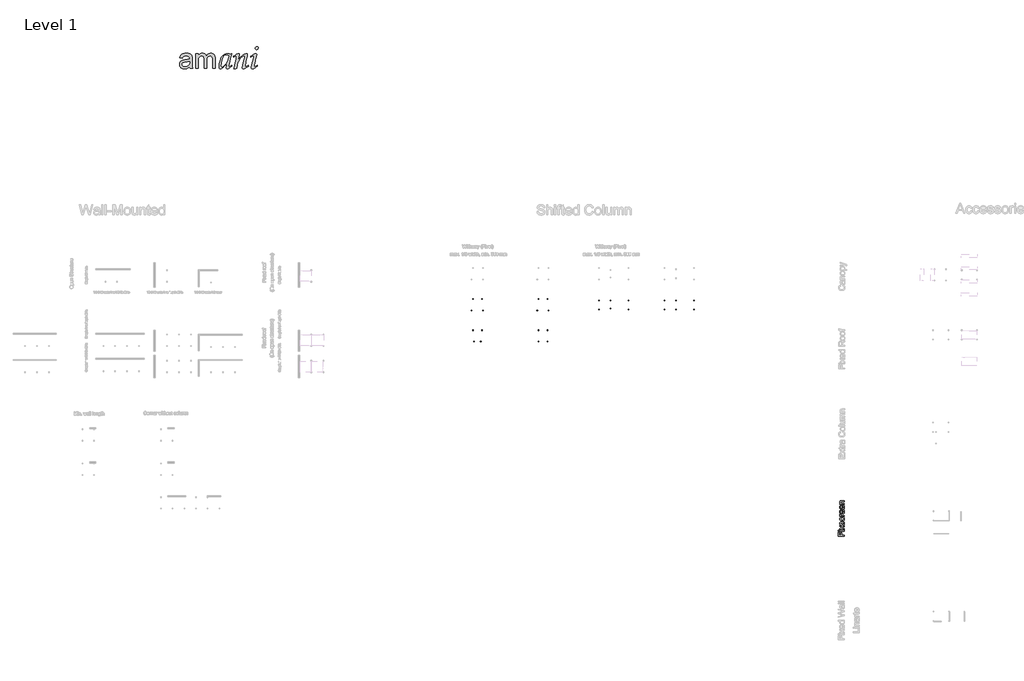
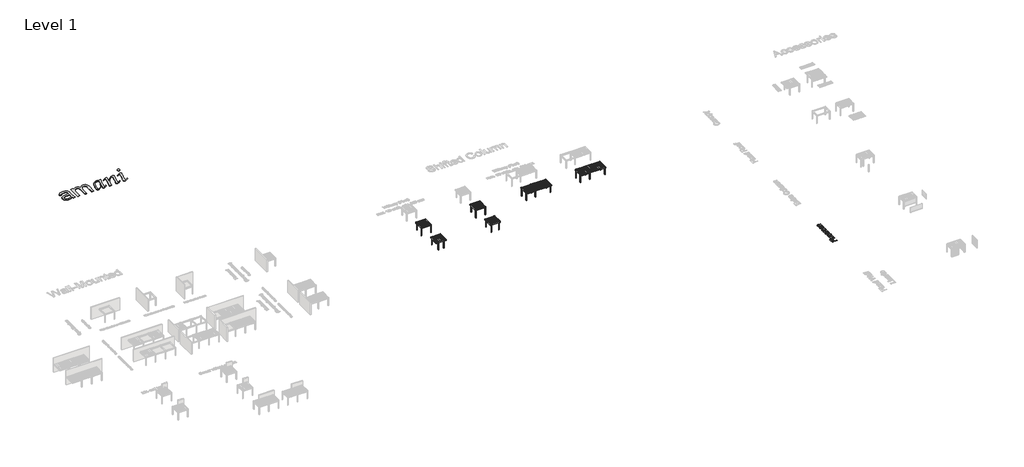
# One storey, part 73 of 80: 9 proxies.
"""IFC4 building model written with IfcOpenShell, lengths in millimetres."""

from ifc_helpers import new_model, si_unit, origin, origin_with_axes, place, context, project, spatial, polyline, outline, extrude, transform, mapped, element, save
from components import generic_models_adf1df4a, generic_models_fc837481, generic_models_2e687909, generic_models_d4e516ff, generic_models_04456231, generic_models_0a3c47ec

model = new_model("IFC4")

# Units and contexts
model_context = context("Model", 3, world=origin())
ifc_project = project(units=[si_unit("LENGTHUNIT", "METRE", prefix="MILLI")], contexts=[model_context])

# Site, building, storey
site = spatial("IfcSite", under=ifc_project)
building = spatial("IfcBuilding", under=site)
storey = spatial("IfcBuildingStorey", under=building, Name="Level 1", Elevation=0.0)

# Proxies
placement = place(None, origin())
generic_models_shape = generic_models_adf1df4a(model_context)
element("IfcBuildingElementProxy", 1, Name="Renson_Amani_Patio_Cover : Renson_Amani_Patio_Cover", ObjectType="Renson_Amani_Patio_Cover : Renson_Amani_Patio_Cover", at=placement, inside=storey, context=model_context, shape_type="MappedRepresentation", body=[
    mapped(generic_models_shape, transform((269453.165057, 60334.5861401, 0.0), x_axis=(1.0, 0.0, 0.0), y_axis=(0.0, 1.0, 0.0), z_axis=(0.0, 0.0, 1.0))),
])
generic_models_2_shape = generic_models_fc837481(model_context)
element("IfcBuildingElementProxy", 2, Name="Renson_Amani_Patio_Cover : Renson_Amani_Patio_Cover", ObjectType="Renson_Amani_Patio_Cover : Renson_Amani_Patio_Cover", at=placement, inside=storey, context=model_context, shape_type="MappedRepresentation", body=[
    mapped(generic_models_2_shape, transform((285773.165057, 60334.5861401, 0.0), x_axis=(1.0, 0.0, 0.0), y_axis=(0.0, 1.0, 0.0), z_axis=(0.0, 0.0, 1.0))),
])
generic_models_3_shape = generic_models_2e687909(model_context)
element("IfcBuildingElementProxy", 3, Name="Renson_Amani_Patio_Cover : Renson_Amani_Patio_Cover", ObjectType="Renson_Amani_Patio_Cover : Renson_Amani_Patio_Cover", at=placement, inside=storey, context=model_context, shape_type="MappedRepresentation", body=[
    mapped(generic_models_3_shape, transform((269453.165057, 52590.5861401, 0.0), x_axis=(1.0, 0.0, 0.0), y_axis=(0.0, 1.0, 0.0), z_axis=(0.0, 0.0, 1.0))),
])
generic_models_4_shape = generic_models_d4e516ff(model_context)
element("IfcBuildingElementProxy", 4, Name="Renson_Amani_Patio_Cover : Renson_Amani_Patio_Cover", ObjectType="Renson_Amani_Patio_Cover : Renson_Amani_Patio_Cover", at=placement, inside=storey, context=model_context, shape_type="MappedRepresentation", body=[
    mapped(generic_models_4_shape, transform((285773.165057, 52590.5861401, 0.0), x_axis=(1.0, 0.0, 0.0), y_axis=(0.0, 1.0, 0.0), z_axis=(0.0, 0.0, 1.0))),
])
generic_models_5_shape = generic_models_04456231(model_context)
element("IfcBuildingElementProxy", 5, Name="Renson_Amani_Patio_Cover : Renson_Amani_Patio_Cover", ObjectType="Renson_Amani_Patio_Cover : Renson_Amani_Patio_Cover", at=placement, inside=storey, context=model_context, shape_type="MappedRepresentation", body=[
    mapped(generic_models_5_shape, transform((301153.165057, 60334.5861401, 0.0), x_axis=(1.0, 0.0, 0.0), y_axis=(0.0, 1.0, 0.0), z_axis=(0.0, 0.0, 1.0))),
])
generic_models_6_shape = generic_models_0a3c47ec(model_context)
element("IfcBuildingElementProxy", 6, Name="Renson_Amani_Patio_Cover : Renson_Amani_Patio_Cover", ObjectType="Renson_Amani_Patio_Cover : Renson_Amani_Patio_Cover", at=placement, inside=storey, context=model_context, shape_type="MappedRepresentation", body=[
    mapped(generic_models_6_shape, transform((317473.165057, 60334.5861401, 0.0), x_axis=(1.0, 0.0, 0.0), y_axis=(0.0, 1.0, 0.0), z_axis=(0.0, 0.0, 1.0))),
])
element("IfcBuildingElementProxy", 7, Name="1500mm", ObjectType="1500mm", at=placement, inside=storey, context=model_context, shape_type="SweptSolid", body=[
    extrude(outline(polyline([(360838.2731482, 2743.6540589), (359331.428496, 2743.6540589), (359331.428496, 3756.0653096), (359519.7840775, 3756.0653096), (359519.7840775, 2932.0096404), (359967.1285837, 2932.0096404), (359967.1285837, 3638.3430712), (360155.4841652, 3638.3430712), (360155.4841652, 2932.0096404), (360838.2731482, 2932.0096404), (360838.2731482, 2743.6540589)])), origin_with_axes(), (0.0, 0.0, 1.0), 5.0),
    extrude(outline(polyline([(359519.7840775, 3991.5097866), (359331.428496, 3991.5097866), (359331.428496, 4179.8653681), (359519.7840775, 4179.8653681), (359519.7840775, 3991.5097866)])), origin_with_axes(), (0.0, 0.0, 1.0), 5.0),
    extrude(outline(polyline([(360838.2731482, 3991.5097866), (359731.6841067, 3991.5097866), (359731.6841067, 4179.8653681), (360838.2731482, 4179.8653681), (360838.2731482, 3991.5097866)])), origin_with_axes(), (0.0, 0.0, 1.0), 5.0),
    extrude(outline(polyline([(360838.2731482, 4344.6765019), (360282.0355715, 4747.1394047), (359731.6841067, 4368.2209496), (359731.6841067, 4594.8362586), (359996.5591433, 4777.6736103), (360121.6390216, 4863.0222331), (360019.367827, 4936.9665142), (359731.6841067, 5145.1877234), (359731.6841067, 5371.8030325), (360282.0355715, 4973.7547137), (360838.2731482, 5357.0877527), (360838.2731482, 5130.4724436), (360503.8684146, 4899.8104327), (360442.8000034, 4857.5040032), (360838.2731482, 4571.291811), (360838.2731482, 4344.6765019)])), origin_with_axes(), (0.0, 0.0, 1.0), 5.0),
    extrude(outline(polyline([(360508.6508806, 5451.2655434), (360485.1064329, 5639.621125), (360528.0566558, 5651.0024742), (360565.6725898, 5669.3275961), (360597.9542349, 5694.5964906), (360624.901591, 5726.8091578), (360646.1467763, 5766.0575682), (360661.3219086, 5812.4336922), (360670.4269879, 5865.9375299), (360673.4620144, 5926.5690812), (360670.6799068, 5987.1316546), (360662.333584, 6039.3249127), (360648.4230461, 6083.1488554), (360628.948293, 6118.6034827), (360605.725742, 6145.9647061), (360580.5718106, 6165.5084371), (360553.4864987, 6177.2346757), (360524.4698063, 6181.1434219), (360499.0399634, 6177.211683), (360476.461206, 6165.4164666), (360456.733534, 6145.7577724), (360439.8569475, 6118.2356007), (360415.9446178, 6047.6942281), (360386.1461762, 5924.3617892), (360336.4361216, 5752.468927), (360314.3057203, 5689.0782607), (360293.9917364, 5640.7247709), (360272.7120622, 5602.3615766), (360247.6845902, 5568.9417966), (360218.9093204, 5540.4654309), (360186.3862528, 5516.9324796), (360151.0925739, 5498.5038909), (360114.0054702, 5485.3406132), (360075.1249419, 5477.4426466), (360034.4509888, 5474.8099911), (359997.2604183, 5476.9253126), (359961.472398, 5483.271277), (359927.0869277, 5493.8478844), (359894.1040076, 5508.6551347), (359863.1904237, 5527.1182123), (359835.0129621, 5548.6623016), (359809.5716229, 5573.2874027), (359786.866406, 5600.9935155), (359756.5621267, 5653.0028325), (359731.1322837, 5720.7391049), (359713.8878152, 5799.0519846), (359708.1396591, 5882.7911238), (359710.4504178, 5946.0898196), (359717.3826942, 6005.3877987), (359728.9364881, 6060.6850611), (359745.1117996, 6111.9816068), (359765.2303462, 6158.0588267), (359788.6138455, 6197.6981116), (359815.2622975, 6230.8994617), (359845.1757023, 6257.6628768), (359879.4002241, 6279.3679146), (359918.9820275, 6297.3941323), (359963.9211125, 6311.7415301), (360014.217479, 6322.410108), (360037.7619267, 6134.0545265), (360006.2965198, 6125.0759065), (359978.4869403, 6110.2801525), (359954.333188, 6089.6672645), (359933.8352631, 6063.2372424), (359917.4990032, 6030.8751231), (359905.8302462, 5992.4659436), (359898.828992, 5948.0097037), (359896.4952406, 5897.5064036), (359898.7255252, 5838.9211958), (359905.416379, 5789.349097), (359916.5678019, 5748.790107), (359932.1797941, 5717.2442259), (359950.7578349, 5693.5848151), (359970.8074036, 5676.685236), (359992.3285003, 5666.5454885), (360015.321125, 5663.1655726), (360044.2918321, 5668.7757731), (360070.1355423, 5685.6063743), (360093.2201375, 5714.3931405), (360111.7062078, 5755.8718354), (360151.8053452, 5918.1077953), (360201.0095621, 6084.5284129), (360240.4649061, 6194.5711147), (360259.7097329, 6233.2906947), (360282.863306, 6267.5956907), (360309.9256253, 6297.4861028), (360340.8966908, 6322.961931), (360375.8224877, 6343.3219002), (360414.7490013, 6357.8647353), (360457.6762316, 6366.5904364), (360504.6041786, 6369.4990034), (360551.7390592, 6366.0845986), (360597.4943824, 6355.8413843), (360641.8701481, 6338.7693605), (360684.8663562, 6314.8685271), (360724.7700564, 6284.5297588), (360759.868298, 6248.1439302), (360790.1610811, 6205.7110413), (360815.6484055, 6157.2310922), (360835.8474263, 6104.0261586), (360850.2752983, 6047.4183166), (360858.9320215, 5987.4075661), (360861.8175959, 5923.9939072), (360856.2533807, 5822.6194249), (360849.2981118, 5776.7433905), (360839.5607352, 5734.0748272), (360827.0412511, 5694.6137351), (360811.7396593, 5658.3601141), (360793.65596, 5625.3139642), (360772.7901531, 5595.4752855), (360749.1882238, 5568.5164331), (360722.8961575, 5544.109762), (360693.9139541, 5522.2552722), (360662.2416135, 5502.9529637), (360627.8791359, 5486.2028366), (360590.8265212, 5472.0048909), (360508.6508806, 5451.2655434)])), origin_with_axes(), (0.0, 0.0, 1.0), 5.0),
    extrude(outline(polyline([(360438.0175375, 7287.7324633), (360461.5619852, 7476.0880449), (360507.2799453, 7467.2876178), (360550.4399759, 7455.6016163), (360591.0420771, 7441.0300404), (360629.0862487, 7423.5728901), (360664.5724909, 7403.2301654), (360697.5008035, 7380.0018663), (360727.8711867, 7353.8879928), (360755.6836403, 7324.8885449), (360780.5587862, 7293.5840863), (360802.1172459, 7260.5551809), (360820.3590195, 7225.8018287), (360835.284107, 7189.3240296), (360846.8925084, 7151.1217837), (360855.1842237, 7111.1950909), (360860.1592529, 7069.5439513), (360861.8175959, 7026.1683648), (360859.5039631, 6971.9833706), (360852.5630645, 6920.5287506), (360840.9949002, 6871.8045048), (360824.7994702, 6825.8106331), (360803.9767744, 6782.5471357), (360778.526813, 6742.0140124), (360748.4495858, 6704.2112634), (360713.7450929, 6669.1388885), (360674.7179865, 6637.5383999), (360631.672919, 6610.1513098), (360584.6098903, 6586.9776182), (360533.5289005, 6568.017325), (360478.4299495, 6553.2704304), (360419.3130373, 6542.7369342), (360356.1781639, 6536.4168365), (360289.0253294, 6534.3101372), (360202.4236085, 6537.908483), (360121.4090954, 6548.7035203), (360045.9817901, 6566.6952491), (359976.1416925, 6591.8836695), (359913.2913529, 6624.441226), (359858.8333213, 6664.5403635), (359812.7675977, 6712.1810819), (359775.0941822, 6767.3633812), (359745.8015783, 6827.5925616), (359724.8782898, 6890.3739233), (359712.3243167, 6955.7074664), (359708.1396591, 7023.5931908), (359713.8878152, 7107.1598853), (359721.0730104, 7145.9513172), (359731.1322837, 7182.748139), (359744.0656351, 7217.5503505), (359759.8730646, 7250.3579519), (359778.5545722, 7281.1709431), (359800.1101578, 7309.9893241), (359824.3098953, 7336.560176), (359850.9238584, 7360.6305799), (359879.9520471, 7382.200536), (359911.3944614, 7401.2700441), (359945.2511013, 7417.8391043), (359981.5219667, 7431.9077165), (360061.3063744, 7452.5435972), (360084.8508221, 7264.1880157), (360040.8544348, 7249.4842322), (360002.6751814, 7230.0209753), (359970.3130622, 7205.7982452), (359943.768077, 7176.8160418), (359923.086211, 7143.810129), (359908.3134497, 7107.516271), (359899.4497929, 7067.9344675), (359896.4952406, 7025.0647188), (359902.3123746, 6961.0647479), (359909.5837922, 6931.4186325), (359919.7637768, 6903.3417636), (359932.8523284, 6876.8341414), (359948.849447, 6851.8957659), (359967.7551327, 6828.5266369), (359989.5693854, 6806.7267546), (360014.5278795, 6787.0249494), (360042.8662894, 6769.9500514), (360074.5846152, 6755.5020609), (360109.6828568, 6743.6809777), (360148.1610142, 6734.4868019), (360190.0190875, 6727.9195335), (360283.8749815, 6722.6657188), (360379.1449219, 6727.8045704), (360421.5289515, 6734.2281349), (360460.4123539, 6743.2211252), (360495.7951293, 6754.7835414), (360527.6772775, 6768.9153833), (360556.0587986, 6785.6166511), (360580.9396926, 6804.8873447), (360602.6246118, 6826.2331226), (360621.4182084, 6849.1596435), (360637.3204824, 6873.6669074), (360650.3314339, 6899.7549142), (360660.4510629, 6927.4236639), (360667.6793693, 6956.6731566), (360673.4620144, 7019.9143709), (360669.8521723, 7070.8775235), (360659.0226461, 7117.4490848), (360640.9734357, 7159.6290548), (360615.7045412, 7197.4174335), (360582.940051, 7229.7565602), (360542.4040536, 7255.588774), (360494.0965491, 7274.9140751), (360438.0175375, 7287.7324633)])), origin_with_axes(), (0.0, 0.0, 1.0), 5.0),
    extrude(outline(polyline([(360838.2731482, 7640.8991787), (359731.6841067, 7640.8991787), (359731.6841067, 7805.7103126), (359895.3915946, 7805.7103126), (359843.0603808, 7836.7503559), (359800.4780398, 7866.5947828), (359767.6445718, 7895.2435931), (359744.5599766, 7922.696787), (359728.6260877, 7950.1959662), (359717.2447384, 7978.9827323), (359710.4159289, 8009.0570854), (359708.1396591, 8040.4190255), (359711.7724938, 8087.1400389), (359722.6709979, 8134.2289342), (359740.8351714, 8181.6857116), (359766.2650143, 8229.510371), (359935.1228501, 8166.6025498), (359918.2232709, 8133.4931703), (359906.152143, 8100.3837907), (359898.9094662, 8067.2744111), (359896.4952406, 8034.1650316), (359898.8174957, 8005.2977912), (359905.784261, 7977.9250715), (359917.3955364, 7952.0468724), (359933.6513221, 7927.663194), (359954.0227876, 7905.6937411), (359977.9811025, 7887.0582187), (360005.5262669, 7871.756627), (360036.6582807, 7859.7889658), (360088.0697896, 7846.4302509), (360141.8725314, 7836.8883116), (360198.0665061, 7831.1631481), (360256.6517139, 7829.2547602), (360838.2731482, 7829.2547602), (360838.2731482, 7640.8991787)])), origin_with_axes(), (0.0, 0.0, 1.0), 5.0),
    extrude(outline(polyline([(360508.6508806, 9121.9920913), (360532.1953282, 9306.6688529), (360606.1626019, 9278.3534356), (360639.8525452, 9260.4795439), (360671.3466929, 9240.128197), (360700.6450449, 9217.2993947), (360727.7476013, 9191.9931372), (360752.654362, 9164.2094243), (360775.3653271, 9133.9482561), (360795.6275776, 9101.3590847), (360813.1881947, 9066.5913621), (360828.0471784, 9029.6450883), (360840.2045287, 8990.5202633), (360856.4143291, 8905.7349597), (360861.8175959, 8812.2354514), (360859.4867186, 8752.2074564), (360852.4940866, 8695.36394), (360840.8397, 8641.7049021), (360824.5235587, 8591.2303428), (360803.5456627, 8543.9402619), (360777.9060121, 8499.8346596), (360747.6046068, 8458.9135358), (360712.6414469, 8421.1768905), (360673.4706366, 8387.2915098), (360630.5462804, 8357.9241799), (360583.8683782, 8333.0749008), (360533.43693, 8312.7436724), (360479.2519358, 8296.9304948), (360421.3133956, 8285.6353679), (360359.6213095, 8278.8582918), (360294.1756774, 8276.5992664), (360226.5026347, 8278.8812844), (360162.726842, 8285.7273384), (360102.8482991, 8297.1374284), (360046.8670061, 8313.1115544), (359994.782963, 8333.6497164), (359946.5961698, 8358.7519144), (359902.3066265, 8388.4181484), (359861.914333, 8422.6484185), (359825.8733938, 8460.5172713), (359794.6379132, 8501.0992539), (359768.2078911, 8544.3943662), (359746.5833275, 8590.4026083), (359729.7642226, 8639.12398), (359717.7505762, 8690.5584815), (359710.5423883, 8744.7061126), (359708.1396591, 8801.5668735), (359710.5366402, 8856.5681059), (359717.7275836, 8908.9999124), (359729.7124892, 8958.8622931), (359746.491357, 9006.1552481), (359768.0641872, 9050.8787772), (359794.4309795, 9093.0328805), (359825.5917342, 9132.617558), (359861.546451, 9169.6328097), (359901.846774, 9203.1301898), (359946.0443468, 9232.1612525), (359994.1391695, 9256.7259979), (360046.1312421, 9276.824426), (360102.0205646, 9292.4565367), (360161.807137, 9303.6223301), (360225.4909592, 9310.3218061), (360293.0720314, 9312.5549648), (360343.8397467, 9311.4513188), (360343.8397467, 8464.9548479), (360419.0026369, 8475.8648483), (360453.0834548, 8485.3636764), (360484.8305214, 8497.5583897), (360514.2438365, 8512.4489883), (360541.3234003, 8530.0354721), (360566.0692126, 8550.3178412), (360588.4812735, 8573.2960955), (360625.6603476, 8624.9490269), (360652.2168292, 8682.6030333), (360668.1507181, 8746.2581148), (360673.4620144, 8815.9142713), (360671.0018036, 8868.0155589), (360663.621171, 8916.162115), (360651.3201168, 8960.3539397), (360634.0986409, 9000.5910329), (360611.4968908, 9036.8733947), (360583.0550141, 9069.201025), (360548.7730107, 9097.5739239), (360508.6508806, 9121.9920913)]), holes=[polyline([(360155.4841652, 8464.9548479), (360155.4841652, 9124.1993833), (360102.1872611, 9114.5194883), (360055.9720855, 9098.7235551), (360016.8386383, 9076.8115838), (359984.7869194, 9048.7835743), (359964.0935572, 9023.9860285), (359946.1593099, 8997.4180507), (359930.9841776, 8969.0796407), (359918.5681603, 8938.9707987), (359902.0134705, 8873.4418183), (359896.4952406, 8800.8311095), (359900.8983282, 8734.6008541), (359914.1075911, 8673.8658359), (359936.1230292, 8618.6260551), (359966.9446427, 8568.8815115), (360005.1468886, 8527.1384014), (360049.3042243, 8495.9029208), (360099.4166499, 8475.1750696), (360155.4841652, 8464.9548479)])]), origin_with_axes(), (0.0, 0.0, 1.0), 5.0),
    extrude(outline(polyline([(360508.6508806, 10275.6700282), (360532.1953282, 10460.3467897), (360606.1626019, 10432.0313724), (360639.8525452, 10414.1574808), (360671.3466929, 10393.8061339), (360700.6450449, 10370.9773316), (360727.7476013, 10345.6710741), (360752.654362, 10317.8873612), (360775.3653271, 10287.626193), (360795.6275776, 10255.0370216), (360813.1881947, 10220.269299), (360828.0471784, 10183.3230251), (360840.2045287, 10144.1982001), (360856.4143291, 10059.4128966), (360861.8175959, 9965.9133882), (360859.4867186, 9905.8853933), (360852.4940866, 9849.0418769), (360840.8397, 9795.382839), (360824.5235587, 9744.9082796), (360803.5456627, 9697.6181988), (360777.9060121, 9653.5125965), (360747.6046068, 9612.5914726), (360712.6414469, 9574.8548274), (360673.4706366, 9540.9694467), (360630.5462804, 9511.6021168), (360583.8683782, 9486.7528377), (360533.43693, 9466.4216093), (360479.2519358, 9450.6084316), (360421.3133956, 9439.3133048), (360359.6213095, 9432.5362286), (360294.1756774, 9430.2772033), (360226.5026347, 9432.5592213), (360162.726842, 9439.4052753), (360102.8482991, 9450.8153653), (360046.8670061, 9466.7894913), (359994.782963, 9487.3276533), (359946.5961698, 9512.4298513), (359902.3066265, 9542.0960853), (359861.914333, 9576.3263553), (359825.8733938, 9614.1952082), (359794.6379132, 9654.7771908), (359768.2078911, 9698.0723031), (359746.5833275, 9744.0805451), (359729.7642226, 9792.8019169), (359717.7505762, 9844.2364183), (359710.5423883, 9898.3840495), (359708.1396591, 9955.2448104), (359710.5366402, 10010.2460427), (359717.7275836, 10062.6778493), (359729.7124892, 10112.54023), (359746.491357, 10159.8331849), (359768.0641872, 10204.5567141), (359794.4309795, 10246.7108174), (359825.5917342, 10286.2954949), (359861.546451, 10323.3107465), (359901.846774, 10356.8081267), (359946.0443468, 10385.8391894), (359994.1391695, 10410.4039348), (360046.1312421, 10430.5023629), (360102.0205646, 10446.1344736), (360161.807137, 10457.300267), (360225.4909592, 10463.999743), (360293.0720314, 10466.2329017), (360343.8397467, 10465.1292557), (360343.8397467, 9618.6327848), (360419.0026369, 9629.5427852), (360453.0834548, 9639.0416133), (360484.8305214, 9651.2363266), (360514.2438365, 9666.1269252), (360541.3234003, 9683.713409), (360566.0692126, 9703.9957781), (360588.4812735, 9726.9740324), (360625.6603476, 9778.6269637), (360652.2168292, 9836.2809702), (360668.1507181, 9899.9360517), (360673.4620144, 9969.5922082), (360671.0018036, 10021.6934957), (360663.621171, 10069.8400519), (360651.3201168, 10114.0318765), (360634.0986409, 10154.2689698), (360611.4968908, 10190.5513315), (360583.0550141, 10222.8789619), (360548.7730107, 10251.2518607), (360508.6508806, 10275.6700282)]), holes=[polyline([(360155.4841652, 9618.6327848), (360155.4841652, 10277.8773201), (360102.1872611, 10268.1974251), (360055.9720855, 10252.401492), (360016.8386383, 10230.4895206), (359984.7869194, 10202.4615111), (359964.0935572, 10177.6639654), (359946.1593099, 10151.0959876), (359930.9841776, 10122.7575776), (359918.5681603, 10092.6487356), (359902.0134705, 10027.1197552), (359896.4952406, 9954.5090464), (359900.8983282, 9888.2787909), (359914.1075911, 9827.5437728), (359936.1230292, 9772.303992), (359966.9446427, 9722.5594484), (360005.1468886, 9680.8163383), (360049.3042243, 9649.5808576), (360099.4166499, 9628.8530065), (360155.4841652, 9618.6327848)])]), origin_with_axes(), (0.0, 0.0, 1.0), 5.0),
    extrude(outline(polyline([(360838.2731482, 10654.5884832), (359731.6841067, 10654.5884832), (359731.6841067, 10842.9440647), (359886.1945447, 10842.9440647), (359844.4629309, 10874.018597), (359808.2955322, 10908.3810746), (359777.6923488, 10946.0314976), (359752.6533805, 10986.9698658), (359733.1786273, 11031.1961795), (359719.2680894, 11078.7104384), (359710.9217666, 11129.5126427), (359708.1396591, 11183.6027923), (359710.38144, 11231.0020881), (359717.1067827, 11276.4470108), (359728.3156872, 11319.9375604), (359744.0081536, 11361.4737369), (359763.344951, 11399.4805456), (359785.4868485, 11432.3829915), (359810.4338463, 11460.1810748), (359838.1859443, 11482.8747953), (359868.7086536, 11501.5103177), (359901.9674853, 11517.1338061), (359937.9624392, 11529.7452608), (359976.6935155, 11539.3446816), (360048.1545931, 11546.794292), (360158.7951031, 11549.2774955), (360838.2731482, 11549.2774955), (360838.2731482, 11360.9219139), (360184.1789608, 11360.9219139), (360086.7822026, 11355.4956545), (360048.6374382, 11348.7128302), (360017.528417, 11339.2168762), (359991.3283212, 11326.2835248), (359967.9103329, 11309.1885084), (359947.2744522, 11287.9318268), (359929.4206791, 11262.5134802), (359915.0157998, 11233.8071883), (359904.7266002, 11202.6866708), (359898.5530805, 11169.1519276), (359896.4952406, 11133.2029589), (359901.1167581, 11076.008805), (359914.9813108, 11022.8843456), (359938.0888987, 10973.8295808), (359970.4395216, 10928.8445106), (359991.0006762, 10908.7115936), (360015.7119996, 10891.2630655), (360044.5734918, 10876.4989264), (360077.5851527, 10864.4191762), (360114.7469824, 10855.0238149), (360156.0589808, 10848.3128426), (360251.1334839, 10842.9440647), (360838.2731482, 10842.9440647), (360838.2731482, 10654.5884832)])), origin_with_axes(), (0.0, 0.0, 1.0), 5.0),
])
element("IfcBuildingElementProxy", 8, Name="5000 mm Arial", ObjectType="5000 mm Arial", at=placement, inside=storey, context=model_context, shape_type="SweptSolid", body=[
    extrude(outline(polyline([(197782.0134779, 119676.5145676), (197707.852683, 119603.8770341), (197633.136233, 119536.7960515), (197557.8641279, 119475.27162), (197482.0363677, 119419.3037393), (197405.6529524, 119368.8924097), (197328.713882, 119324.037631), (197251.2191565, 119284.7394033), (197173.1687759, 119250.9977265), (197094.1220483, 119221.9695379), (197013.6382816, 119196.8117743), (196931.7174758, 119175.524436), (196848.359631, 119158.1075228), (196763.5647472, 119144.5610347), (196677.3328243, 119134.8849718), (196589.6638624, 119129.0793341), (196500.5578614, 119127.1441215), (196356.4803269, 119131.800128), (196221.0058661, 119145.7681475), (196094.1344791, 119169.04818), (195975.8661658, 119201.6402255), (195866.2009262, 119243.544284), (195765.1387604, 119294.7603555), (195672.6796684, 119355.2884401), (195588.82365, 119425.1285376), (195514.2413237, 119502.2113119), (195449.6033075, 119584.4674268), (195394.9096015, 119671.8968822), (195350.1602057, 119764.4996781), (195315.35512, 119862.2758147), (195290.4943446, 119965.2252918), (195275.5778793, 120073.3481094), (195270.6057242, 120186.6442676), (195272.4834552, 120253.9551764), (195278.1166483, 120319.7715646), (195287.5053034, 120384.0934322), (195300.6494205, 120446.9207792), (195317.5489996, 120508.2536056), (195338.2040408, 120568.0919114), (195362.614544, 120626.4356965), (195390.7805093, 120683.2849611), (195422.0025776, 120738.0074079), (195455.5813899, 120789.9707397), (195491.5169463, 120839.1749566), (195529.8092466, 120885.6200584), (195570.4582911, 120929.3060454), (195613.4640795, 120970.2329173), (195658.826612, 121008.4006743), (195706.5458885, 121043.8093164), (195807.3685478, 121107.728813), (195914.2459316, 121163.3709648), (196027.1780399, 121210.7357717), (196146.1648727, 121249.8232337), (196247.7156318, 121274.1187738), (196372.1057314, 121297.9544614), (196519.3351716, 121321.3302965), (196689.4039523, 121344.2462791), (197034.7531752, 121391.7643701), (197331.3580339, 121443.5744178), (197461.3813265, 121471.0889253), (197579.2185281, 121499.6764221), (197684.8696386, 121529.3369079), (197778.334658, 121560.0703829), (197782.0134779, 121699.8655411), (197779.3118445, 121778.9984911), (197771.2069443, 121852.0767166), (197757.6987773, 121919.1002176), (197738.7873435, 121980.0689941), (197714.4726429, 122034.9830461), (197684.7546755, 122083.8423736), (197649.6334412, 122126.6469765), (197609.1089402, 122163.396855), (197547.2971008, 122205.9332107), (197478.3575478, 122242.7980523), (197402.2902811, 122273.9913798), (197319.0953007, 122299.5131932), (197228.7726067, 122319.3634926), (197131.322199, 122333.5422778), (197026.7440776, 122342.0495489), (196915.0382426, 122344.885306), (196810.9582948, 122342.9979947), (196713.9294186, 122337.3360609), (196623.951614, 122327.8995045), (196541.0248809, 122314.6883255), (196465.1492194, 122297.702524), (196396.3246294, 122276.9421), (196334.5511111, 122252.4070534), (196279.8286643, 122224.0973842), (196230.2987186, 122190.9784244), (196184.1027035, 122152.0155058), (196141.2406189, 122107.2086284), (196101.712465, 122056.5577923), (196065.5182416, 122000.0629973), (196032.6579488, 121937.7242436), (196003.1315866, 121869.5415311), (195976.9391549, 121795.5148598), (195349.0872165, 121873.9963521), (195371.3038401, 121966.7332718), (195396.8735548, 122054.8716664), (195425.7963607, 122138.4115362), (195458.0722576, 122217.352881), (195493.7012456, 122291.6957008), (195532.6833247, 122361.4399958), (195575.018495, 122426.5857657), (195620.7067563, 122487.1330108), (195670.6965545, 122543.7140281), (195725.9363353, 122596.9611148), (195786.4260988, 122646.8742709), (195852.1658449, 122693.4534964), (195923.1555737, 122736.6987914), (195999.3952851, 122776.6101557), (196080.8849791, 122813.1875895), (196167.6246558, 122846.4310927), (196258.7616719, 122876.034097), (196353.4433844, 122901.6900341), (196451.6697932, 122923.3989039), (196553.4408982, 122941.1607065), (196658.7566996, 122954.9754418), (196767.6171973, 122964.8431099), (196880.0223913, 122970.7637108), (196995.9722816, 122972.7372444), (197110.3318487, 122970.993637), (197219.1923464, 122965.7628149), (197322.5537747, 122957.0447781), (197420.4161335, 122944.8395264), (197512.779423, 122929.1470601), (197599.643643, 122909.967379), (197681.0087937, 122887.3004831), (197756.8748749, 122861.1463725), (197827.5676156, 122832.3576904), (197893.4127446, 122801.7870798), (197954.4102619, 122769.4345408), (198010.5601675, 122735.3000734), (198061.8624613, 122699.3836775), (198108.3171435, 122661.6853533), (198149.9242139, 122622.2051006), (198186.6836726, 122580.9429195), (198219.7355706, 122537.4006365), (198250.2199589, 122491.080078), (198278.1368374, 122441.981244), (198303.4862061, 122390.1041345), (198326.2680651, 122335.4487496), (198346.4824143, 122278.0150891), (198364.1292538, 122217.8031532), (198379.2085835, 122154.8129418), (198392.6209479, 122060.6964647), (198402.2012082, 121937.7625646), (198407.9493643, 121786.0112416), (198409.8654164, 121605.4424957), (198409.8654164, 120824.3063926), (198411.8581105, 120450.3313519), (198417.8361929, 120143.8779857), (198427.7996636, 119904.946294), (198441.7485226, 119733.5362769), (198461.5221799, 119597.3049755), (198488.9600453, 119463.9094312), (198524.0621191, 119333.349644), (198566.828401, 119205.6256138), (197938.9764626, 119205.6256138), (197909.6991871, 119256.975809), (197883.1810266, 119310.4719824), (197859.4219811, 119366.1141342), (197838.4220505, 119423.9022643), (197820.1812349, 119483.8363727), (197804.6995343, 119545.9164593), (197782.0134779, 119676.5145676)]), holes=[polyline([(197782.0134779, 120932.2184445), (197692.4188837, 120904.5314923), (197592.2476821, 120877.8792081), (197481.4998731, 120852.2615921), (197360.1754568, 120827.6786442), (197085.7968021, 120781.6167527), (196769.1117179, 120739.6935337), (196592.336755, 120716.3176986), (196443.382868, 120691.562306), (196322.2500569, 120665.4273559), (196228.9383216, 120637.9128484), (196154.0973283, 120606.4129525), (196088.3767427, 120568.3218376), (196031.7765649, 120523.6395036), (195984.2967949, 120472.3659505), (195946.7421745, 120416.3405883), (195919.9174457, 120357.402827), (195903.8226084, 120295.5526666), (195898.4576626, 120230.790107), (195901.379642, 120180.953593), (195910.1455802, 120133.2247362), (195924.7554771, 120087.6035367), (195945.2093329, 120044.0899945), (195971.5071474, 120002.6841095), (196003.6489206, 119963.3858818), (196041.6346527, 119926.1953113), (196085.4643435, 119891.1123981), (196134.9463879, 119859.2101314), (196189.8891807, 119831.5615002), (196250.2927218, 119808.1665045), (196316.1570113, 119789.0251445), (196387.4820492, 119774.13742), (196464.2678354, 119763.5033311), (196546.51437, 119757.1228777), (196634.221653, 119754.9960599), (196722.2067635, 119757.3432237), (196807.7393274, 119764.384715), (196890.8193446, 119776.1205339), (196971.4468152, 119792.5506803), (197049.6217392, 119813.6751542), (197125.3441166, 119839.4939557), (197198.6139473, 119870.0070847), (197269.4312313, 119905.2145413), (197336.7229796, 119943.7559284), (197399.416203, 119984.2708492), (197457.5109014, 120026.7593036), (197511.0070748, 120071.2212916), (197559.9047234, 120117.6568132), (197604.2038469, 120166.0658685), (197643.9044456, 120216.4484574), (197679.0065193, 120268.8045799), (197702.2865518, 120312.3372826), (197722.46258, 120360.7750787), (197739.5346038, 120414.117968), (197753.5026233, 120472.3659505), (197764.3666385, 120535.5190264), (197772.1266493, 120603.5771955), (197776.7826558, 120676.5404578), (197778.334658, 120754.4088135), (197782.0134779, 120932.2184445)])]), origin_with_axes(), (0.0, 0.0, 1.0), 5.0),
    extrude(outline(polyline([(199273.1618317, 119205.6256138), (199273.1618317, 122894.2557521), (199901.0137702, 122894.2557521), (199901.0137702, 122287.2504601), (199943.1669154, 122362.6183678), (199988.6923124, 122434.2116529), (200037.5899609, 122502.0303155), (200089.859861, 122566.0743556), (200145.5020128, 122626.3437731), (200204.5164162, 122682.838568), (200266.9030712, 122735.5587404), (200332.6619778, 122784.5042902), (200401.275802, 122828.6213889), (200472.2272098, 122866.8562077), (200545.516201, 122899.2087467), (200621.1427757, 122925.6790059), (200699.106934, 122946.2669852), (200779.4086757, 122960.9726848), (200862.048001, 122969.7961045), (200947.0249098, 122972.7372444), (201040.815658, 122969.7386229), (201130.2761286, 122960.7427585), (201215.4063216, 122945.7496512), (201296.2062369, 122924.7593009), (201372.6758745, 122897.7717076), (201444.8152345, 122864.7868715), (201512.6243169, 122825.8047923), (201576.1031215, 122780.8254703), (201635.155846, 122730.4428814), (201689.6866875, 122675.2510019), (201739.6956463, 122615.2498317), (201785.1827221, 122550.4393708), (201826.1479151, 122480.8196192), (201862.5912253, 122406.390577), (201894.5126526, 122327.1522442), (201921.912197, 122243.1046206), (202032.3151166, 122414.1122668), (202150.7654548, 122562.3188935), (202277.2632117, 122687.7245008), (202411.8083872, 122790.3290885), (202554.4009814, 122870.1326567), (202705.0409942, 122927.1352054), (202863.7284257, 122961.3367347), (203030.4632758, 122972.7372444), (203159.9788147, 122967.9950156), (203281.8109848, 122953.768329), (203395.9597862, 122930.0571848), (203502.4252188, 122896.8615829), (203601.2072826, 122854.1815233), (203692.3059778, 122802.017006), (203775.7213041, 122740.3680311), (203851.4532617, 122669.2345984), (203918.8503929, 122588.2334976), (203977.2612398, 122496.9815184), (204026.6858027, 122395.4786606), (204067.1240814, 122283.7249243), (204098.5760759, 122161.7203095), (204121.0417863, 122029.4648162), (204134.5212125, 121886.9584443), (204139.0143546, 121734.201194), (204139.0143546, 119205.6256138), (203511.1624162, 119205.6256138), (203511.1624162, 121464.4210642), (203507.5219173, 121633.7617451), (203496.6004205, 121777.5806126), (203478.397926, 121895.8776667), (203466.5663045, 121945.4555137), (203452.9144336, 121988.6529073), (203436.8770779, 122027.692468), (203417.889002, 122064.7968161), (203395.9502059, 122099.9659516), (203371.0606897, 122133.1998746), (203343.2204533, 122164.498585), (203312.4294967, 122193.8620827), (203278.6878199, 122221.290368), (203241.995423, 122246.7834406), (203202.9941834, 122269.7760653), (203162.3259785, 122289.7030067), (203119.9908082, 122306.5642648), (203075.9886727, 122320.3598396), (203030.3195719, 122331.0897312), (202982.9835058, 122338.7539394), (202883.3104777, 122344.885306), (202792.3842273, 122340.9573993), (202705.3858836, 122329.1736791), (202622.3154466, 122309.5341455), (202543.1729164, 122282.0387985), (202467.9582928, 122246.687638), (202396.671576, 122203.4806641), (202329.3127659, 122152.4178767), (202265.8818625, 122093.4992759), (202208.2565968, 122025.9201198), (202158.3146999, 121948.8756666), (202116.0561718, 121862.3659162), (202081.4810124, 121766.3908686), (202054.5892218, 121660.9505238), (202035.3807999, 121546.0448819), (202023.8557468, 121421.6739428), (202020.0140624, 121287.8377065), (202020.0140624, 119205.6256138), (201392.162124, 119205.6256138), (201392.162124, 121534.3186433), (201389.8916023, 121632.6121139), (201383.0800372, 121724.5442916), (201371.7274287, 121810.1151765), (201355.8337769, 121889.3247686), (201335.3990817, 121962.1730679), (201310.4233431, 122028.6600743), (201280.9065612, 122088.7857879), (201246.8487359, 122142.5502086), (201207.61757, 122189.9724971), (201162.5807663, 122231.0718137), (201111.738325, 122265.8481586), (201055.0902459, 122294.3015316), (200992.636529, 122316.4319329), (200924.3771745, 122332.2393624), (200850.3121821, 122341.7238201), (200770.4415521, 122344.885306), (200708.1890207, 122342.7776487), (200647.1244416, 122336.4546769), (200587.2478148, 122325.9163906), (200528.5591403, 122311.1627898), (200471.058418, 122292.1938744), (200414.745648, 122269.0096445), (200359.6208303, 122241.6101), (200305.6839649, 122209.9952411), (200254.1804855, 122174.3183518), (200206.3558262, 122134.7327162), (200162.2099867, 122091.2383345), (200121.7429673, 122043.8352066), (200084.9547678, 121992.5233325), (200051.8453882, 121937.3027122), (200022.4148286, 121878.1733456), (199996.6630889, 121815.1352329), (199974.2452798, 121746.5597298), (199954.816512, 121670.8181919), (199938.3767853, 121587.9106193), (199924.9260999, 121497.8370121), (199914.4644556, 121400.5973701), (199906.9918526, 121296.1916935), (199901.0137702, 121065.8822361), (199901.0137702, 119205.6256138), (199273.1618317, 119205.6256138)])), origin_with_axes(), (0.0, 0.0, 1.0), 5.0),
])
element("IfcBuildingElementProxy", 9, Name="5000 mm Arial 2", ObjectType="5000 mm Arial 2", at=placement, inside=storey, context=model_context, shape_type="SweptSolid", body=[
    extrude(outline(polyline([(208153.8067878, 122876.9456716), (208242.0596738, 122819.5812957), (208065.0942514, 122183.6089359), (207909.2727495, 121584.7763324), (207774.5951683, 121023.083485), (207715.1853479, 120756.1644698), (207661.0615076, 120498.5303938), (207607.006615, 120231.1057632), (207568.3959773, 120014.2426818), (207545.2295948, 119847.9411498), (207537.5074672, 119732.201167), (207539.4839642, 119697.6354533), (207545.4134549, 119667.4823839), (207555.2959396, 119641.7419588), (207569.1314181, 119620.414178), (207586.4602399, 119603.6829017), (207606.8227548, 119591.7319901), (207630.2189626, 119584.5614431), (207656.6488633, 119582.1712608), (207693.2140565, 119588.0547865), (207739.6617342, 119605.7053637), (207795.9918966, 119635.1229924), (207862.2045437, 119676.3076725), (207938.2996753, 119729.2594041), (208024.2772916, 119793.9781872), (208225.8799781, 119958.7169077), (208271.4773025, 119770.4440842), (208066.9328532, 119604.2344823), (207865.1463065, 119455.6754575), (207765.2872467, 119388.0149115), (207666.1176626, 119324.7670099), (207567.6375541, 119265.9317526), (207469.8469213, 119211.5091395), (207375.8943697, 119167.7504169), (207288.1930643, 119136.4941864), (207206.7430049, 119117.7404482), (207131.5441916, 119111.4892021), (207081.3503627, 119115.2123707), (207038.1432206, 119126.3818766), (207001.9227653, 119144.9977197), (206972.6889968, 119171.0599001), (206950.1661249, 119205.4877187), (206934.0783592, 119249.2004763), (206924.4256998, 119302.1981729), (206921.2081466, 119364.4808086), (206925.2300881, 119453.4001878), (206937.2959123, 119563.5094526), (206957.4056194, 119694.808603), (206985.5592094, 119847.2976391), (207021.7566821, 120020.9765609), (207065.9980377, 120215.8453683), (207178.6123975, 120669.1526401), (207149.1947688, 120672.0944029), (207013.8966595, 120484.7638629), (206876.438193, 120306.6722968), (206736.8193694, 120137.8197048), (206595.0401888, 119978.2060867), (206451.100651, 119827.8314427), (206305.0007561, 119686.6957726), (206156.7405041, 119554.7990766), (206006.3198951, 119432.1413545), (205907.5180313, 119356.9885063), (205815.5649592, 119291.8560378), (205730.4606787, 119236.7439491), (205652.20519, 119191.6522402), (205580.7984929, 119156.580911), (205516.2405875, 119131.5299616), (205458.5314737, 119116.4993919), (205407.6711516, 119111.4892021), (205380.1151073, 119113.2588563), (205354.0759094, 119118.567819), (205329.553558, 119127.4160901), (205306.5480531, 119139.8036697), (205285.0593947, 119155.7305577), (205265.0875827, 119175.1967541), (205246.6326172, 119198.2022591), (205229.6944982, 119224.7470724), (205207.6312767, 119270.5742221), (205188.5098181, 119321.2736665), (205172.3301223, 119376.8454057), (205159.0921894, 119437.2894396), (205148.7960194, 119502.6057682), (205141.4416122, 119572.7943916), (205135.5580865, 119727.7885227), (205139.0859037, 119870.9006896), (205149.6693552, 120020.7697182), (205167.3084412, 120177.3956083), (205192.0031615, 120340.77836), (205223.7535162, 120510.9179733), (205262.5595052, 120687.8144482), (205308.4211287, 120871.4677847), (205361.3383865, 121061.8779828), (205417.9328479, 121248.7029073), (205474.8260821, 121421.6004233), (205532.0180891, 121580.5705308), (205589.5088689, 121725.6132296), (205647.2984214, 121856.7285199), (205705.3867468, 121973.9164016), (205763.7738449, 122077.1768747), (205822.4597159, 122166.5099393), (205872.2398594, 122229.2062604), (205932.5919632, 122293.0057425), (206003.5160273, 122357.9083858), (206085.0120517, 122423.9141901), (206177.0800365, 122491.0231555), (206279.7199815, 122559.235282), (206392.9318868, 122628.5505695), (206516.7157524, 122698.9690182), (206598.0049342, 122740.6822963), (206680.0755216, 122776.8338041), (206762.9275149, 122807.4235414), (206846.5609139, 122832.4515083), (206930.9757187, 122851.9177047), (207016.1719292, 122865.8221308), (207102.1495455, 122874.1647864), (207188.9085675, 122876.9456716), (207266.5894932, 122874.8772446), (207346.6606013, 122868.6719636), (207429.1218916, 122858.3298285), (207513.9733643, 122843.8508394), (207601.3988795, 122825.1430661), (207691.5822974, 122802.1145787), (207784.523618, 122774.765377), (207880.2228412, 122743.0954612), (208153.8067878, 122876.9456716)]), holes=[polyline([(207536.0365858, 122373.9042214), (207454.172841, 122404.1492209), (207374.7912087, 122430.1654362), (207297.8916887, 122451.9528674), (207223.4742812, 122469.5115146), (207151.1712657, 122483.0252377), (207080.614922, 122492.6778971), (207011.8052499, 122498.4694928), (206944.7422496, 122500.4000247), (206872.4392341, 122498.7682656), (206801.8828904, 122493.8729883), (206733.0732183, 122485.7141929), (206666.0102179, 122474.2918792), (206600.6938893, 122459.6060474), (206537.1242323, 122441.6566974), (206475.3012471, 122420.4438292), (206415.2249335, 122395.9674429), (206397.7122515, 122384.6140768), (206379.0044782, 122367.4691151), (206338.0036583, 122315.8044048), (206292.2224737, 122240.9733118), (206241.6609244, 122142.9758363), (206190.7776198, 122029.6720009), (206141.0894064, 121908.9218282), (206092.5962841, 121780.7253183), (206045.298253, 121645.0824711), (205999.1953131, 121501.9932867), (205954.2874643, 121351.457765), (205868.0570403, 121028.0477098), (205828.756927, 120861.4244224), (205794.6968288, 120699.85729), (205765.8767457, 120543.3463125), (205742.2966778, 120391.8914899), (205723.9566249, 120245.4928222), (205710.8565871, 120104.1503094), (205702.9965645, 119967.8639516), (205700.3765569, 119836.6337487), (205702.8586693, 119771.9149657), (205710.3050066, 119717.4923526), (205722.7155687, 119673.3659096), (205740.0903556, 119639.5356367), (205760.9584859, 119614.4387222), (205783.8490782, 119596.5123547), (205808.7621325, 119585.7565343), (205835.6976488, 119582.1712608), (205878.3187366, 119588.4799632), (205928.9607247, 119607.4060703), (205987.6236131, 119638.9495823), (206054.3074018, 119683.1104991), (206129.0120909, 119739.8888207), (206211.7376802, 119809.2845471), (206302.4841699, 119891.2976783), (206401.2515599, 119985.9282142), (206501.3059712, 120087.2696467), (206595.9135246, 120189.4154675), (206685.0742203, 120292.3656766), (206768.7880581, 120396.120274), (206847.0550381, 120500.6792596), (206919.8751603, 120606.0426336), (206987.2484247, 120712.2103958), (207049.1748313, 120819.1825463), (207125.9594387, 120970.5684213), (207198.1935066, 121134.2269633), (207265.877035, 121310.1581722), (207329.0100241, 121498.3620481), (207387.5924736, 121698.838591), (207441.6243838, 121911.5878008), (207491.1057545, 122136.6096776), (207536.0365858, 122373.9042214)])]), origin_with_axes(), (0.0, 0.0, 1.0), 5.0),
    extrude(outline(polyline([(208727.4505469, 122029.717966), (208665.6735267, 122217.9907894), (208963.4350869, 122408.7457253), (209227.1825139, 122569.1637317), (209456.9158078, 122699.2448084), (209652.6349685, 122798.9889556), (209732.0625659, 122833.0950189), (209807.077519, 122857.4564926), (209877.6798278, 122872.0733769), (209943.8694923, 122876.9456716), (209985.5138229, 122873.6361884), (210022.1939286, 122863.7077387), (210053.9098096, 122847.1603226), (210080.6614656, 122823.99394), (210101.8973163, 122794.208591), (210117.0657811, 122757.8042755), (210126.16686, 122714.7809936), (210129.2005529, 122665.1387452), (210122.5815865, 122569.531452), (210102.7246871, 122441.5647673), (209811.4901633, 121133.951173), (209892.9632052, 121263.5496168), (209977.7916954, 121389.7926123), (210065.9756338, 121512.6801596), (210157.5150205, 121632.2122586), (210252.4098555, 121748.3889093), (210350.6601387, 121861.2101118), (210452.2658703, 121970.6758659), (210557.2270501, 122076.7861718), (210663.2684084, 122177.6794452), (210768.1146756, 122271.4941016), (210871.7658516, 122358.2301411), (210974.2219364, 122437.8875637), (211075.4829301, 122510.4663695), (211175.5488326, 122575.9665583), (211274.419644, 122634.3881302), (211372.0953642, 122685.7310853), (211466.5305487, 122730.5470039), (211555.6797531, 122769.3874668), (211639.5429773, 122802.2524738), (211718.1202214, 122829.142025), (211791.4114853, 122850.0561204), (211859.4167691, 122864.99476), (211922.1360727, 122873.9579437), (211979.5693962, 122876.9456716), (212026.3618118, 122872.9007477), (212068.1900025, 122860.7659759), (212105.0539685, 122840.5413561), (212136.9537095, 122812.2268885), (212162.6941346, 122776.5580138), (212181.0801525, 122734.2701726), (212192.1117633, 122685.3633649), (212195.7889669, 122629.8375908), (212189.1700004, 122519.1537629), (212169.3131011, 122398.9092058), (212132.6329953, 122226.9080081), (212060.8355954, 121912.4151717), (211811.8889128, 120855.9545821), (211706.3531699, 120411.7483892), (211630.9704965, 120070.5038967), (211585.7408924, 119832.2211044), (211574.4334914, 119751.690346), (211570.6643577, 119696.9000126), (211572.525942, 119670.0104614), (211578.1106949, 119646.7061836), (211587.4186165, 119626.9871794), (211600.4497067, 119610.8534487), (211617.2039655, 119598.3049915), (211637.681393, 119589.3418077), (211661.8819891, 119583.9638975), (211689.8057538, 119582.1712608), (211721.7054949, 119585.6186391), (211760.7757829, 119595.9607742), (211807.016618, 119613.197666), (211860.4280001, 119637.3293145), (211988.7624051, 119706.2768817), (212145.7789981, 119802.8034758), (212398.7706047, 119958.7169077), (212470.8437949, 119770.4440842), (212233.0436357, 119616.0015337), (212016.0656417, 119482.1513233), (211819.9098131, 119368.8934529), (211644.5761497, 119276.2279226), (211490.0646516, 119204.1547324), (211356.3753188, 119152.6738822), (211243.5081514, 119121.7853721), (211151.4631492, 119111.4892021), (211101.039495, 119116.1316716), (211055.6719958, 119130.0590802), (211015.3606515, 119153.2714278), (210980.1054622, 119185.7687144), (210951.4692393, 119226.5397092), (210931.0147943, 119274.573181), (210918.7421274, 119329.8691299), (210914.6512384, 119392.4275558), (210918.6042322, 119459.8582766), (210930.4632138, 119550.3634498), (210950.228183, 119663.9430754), (210977.89914, 119800.5971536), (211056.9590171, 120143.1286674), (211167.6428449, 120577.9579912), (211322.0853954, 121186.4432542), (211382.7592546, 121442.3536411), (211432.4015029, 121666.0425316), (211471.0121406, 121857.5099256), (211498.5911674, 122016.7558233), (211515.1385836, 122143.7802246), (211520.6543889, 122238.5831295), (211518.3101717, 122276.0906061), (211511.2775198, 122309.1854383), (211499.5564334, 122337.8676263), (211483.1469124, 122362.1371699), (211462.7843975, 122381.4424887), (211439.2043296, 122395.2320022), (211412.4067085, 122403.5057102), (211382.3915342, 122406.2636129), (211327.2794455, 122401.3223706), (211267.1112019, 122386.4986437), (211201.8868033, 122361.7924321), (211131.6062498, 122327.2037359), (211056.2695414, 122282.732555), (210975.876678, 122228.3788896), (210890.4276598, 122164.1427395), (210799.9224866, 122090.0241047), (210669.7724622, 121973.6406113), (210547.0228101, 121851.7413125), (210431.6735302, 121724.3262084), (210323.7246225, 121591.3952988), (210223.176087, 121452.9485839), (210130.0279237, 121308.9860636), (210044.2801327, 121159.5077379), (209965.9327138, 121004.5136069), (209893.1930304, 120838.6717253), (209824.2684458, 120656.6501479), (209759.1589598, 120458.4488747), (209697.8645726, 120244.0679058), (209640.3852841, 120013.5072411), (209586.7210943, 119766.7668807), (209536.8720032, 119503.8468244), (209490.8380108, 119224.7470724), (209363.0551863, 119207.7400059), (209217.9895049, 119183.1946719), (209055.6409667, 119151.1110707), (208876.0095717, 119111.4892021), (208806.8781443, 119176.2079851), (208875.2741309, 119412.3074377), (208941.4637954, 119652.8654997), (209005.4471378, 119897.8821709), (209067.224158, 120147.3574515), (209184.159232, 120659.6838408), (209292.2690173, 121189.8446675), (209360.4811438, 121566.8499649), (209409.2040913, 121868.2887286), (209438.4378598, 122094.1609588), (209445.7463019, 122178.7596237), (209448.1824493, 122244.4666552), (209446.1599873, 122282.3878172), (209440.0926014, 122315.2528242), (209429.9802915, 122343.0616763), (209415.8230577, 122365.8143735), (209398.0805504, 122383.5109158), (209377.2124201, 122396.1513031), (209353.2186667, 122403.7355355), (209326.0992903, 122406.2636129), (209286.5004042, 122400.3800872), (209236.8351733, 122382.72951), (209177.1035976, 122353.3118813), (209107.3056771, 122312.1272012), (209027.4414117, 122259.1754696), (208937.5108016, 122194.4566865), (208727.4505469, 122029.717966)])), origin_with_axes(), (0.0, 0.0, 1.0), 5.0),
    extrude(outline(polyline([(213034.1913839, 122029.717966), (212957.7055494, 122217.9907894), (213193.8969321, 122372.43334), (213408.9903592, 122506.2835504), (213602.9858307, 122619.5414208), (213775.8833467, 122712.2069511), (213927.6829072, 122784.2801413), (214058.384512, 122835.7609915), (214167.9881614, 122866.6495016), (214256.4938551, 122876.9456716), (214301.539599, 122873.7281185), (214341.0695375, 122864.0754591), (214375.0836707, 122847.9876934), (214403.5819984, 122825.4648214), (214426.1048704, 122796.6907034), (214442.1926361, 122761.8491995), (214451.8452955, 122720.9403096), (214455.0628486, 122673.9640338), (214452.3279285, 122607.0389286), (214444.123168, 122526.8758905), (214430.4485671, 122433.4749194), (214411.304126, 122326.8360155), (214356.6057227, 122073.844409), (214280.027958, 121767.9010708), (214173.8487046, 121365.1323658), (214081.8266849, 121004.0539564), (214003.961899, 120684.6658427), (213940.2543469, 120406.9680245), (213890.7040286, 120170.9605021), (213855.3109441, 119976.6432752), (213834.0750934, 119824.0163439), (213826.9964765, 119713.0797083), (213828.8580609, 119682.3980409), (213834.4428138, 119655.8072625), (213843.7507354, 119633.3073731), (213856.7818256, 119614.8983727), (213873.5360844, 119600.5802612), (213894.0135119, 119590.3530387), (213918.2141079, 119584.2167052), (213946.1378727, 119582.1712608), (213986.0585141, 119588.0547865), (214036.6890109, 119605.7053637), (214098.0293632, 119635.1229924), (214170.0795709, 119676.3076725), (214252.839634, 119729.2594041), (214346.3095526, 119793.9781872), (214565.3789561, 119958.7169077), (214641.8647907, 119770.4440842), (214366.9018927, 119583.458282), (214117.1278393, 119424.0515067), (213892.5426304, 119292.2237582), (213789.6958427, 119236.652019), (213693.1462661, 119187.9750366), (213617.9474528, 119154.512484), (213545.322682, 119130.6106607), (213475.2719538, 119116.2695667), (213407.795268, 119111.4892021), (213356.1765227, 119117.2348327), (213308.6946314, 119134.4717245), (213265.3495942, 119163.1998775), (213226.141411, 119203.4192917), (213208.7321503, 119227.677344), (213193.6441243, 119254.4864564), (213170.4317767, 119315.7578611), (213156.5043681, 119387.2335058), (213151.8618986, 119468.9133904), (213155.0334867, 119539.331839), (213164.548251, 119625.562263), (213180.4061914, 119727.6046625), (213202.6073081, 119845.4590373), (213266.0390699, 120128.6037133), (213354.8435364, 120474.9962908), (213527.9478951, 121142.5926014), (213595.9531789, 121421.0948078), (213651.5938656, 121662.7330483), (213694.8699553, 121867.5073229), (213725.7814479, 122035.4176315), (213744.3283435, 122166.4639742), (213750.510642, 122260.646351), (213748.7869528, 122294.7753968), (213743.6158853, 122324.3539031), (213734.9974394, 122349.38187), (213722.9316151, 122369.8592974), (213707.4184125, 122385.7861855), (213688.4578315, 122397.1625341), (213666.0498722, 122403.9883432), (213640.1945345, 122406.2636129), (213604.0200442, 122400.3800872), (213556.538153, 122382.72951), (213497.7488607, 122353.3118813), (213427.6521674, 122312.1272012), (213346.248073, 122259.1754696), (213253.5365777, 122194.4566865), (213034.1913839, 122029.717966)])), origin_with_axes(), (0.0, 0.0, 1.0), 5.0),
    extrude(outline(polyline([(214172.6536134, 124218.3895389), (214174.5956365, 124261.8724713), (214180.421706, 124304.0683824), (214190.1318217, 124344.9772723), (214203.7259837, 124384.5991409), (214221.204192, 124422.9339882), (214242.5664465, 124459.9818143), (214267.8127474, 124495.7426192), (214296.9430945, 124530.2164028), (214328.4406415, 124561.9322837), (214360.7885417, 124589.4193805), (214393.9867953, 124612.6776931), (214428.0354023, 124631.7072217), (214462.9343625, 124646.5079661), (214498.6836761, 124657.0799264), (214535.283343, 124663.4231026), (214572.7333633, 124665.5374947), (214629.8219489, 124660.75713), (214680.4754283, 124646.416036), (214724.6938014, 124622.5142127), (214762.4770682, 124589.0516601), (214792.7220677, 124546.6718888), (214814.3256387, 124496.0184095), (214827.2877814, 124437.091222), (214831.6084956, 124369.8903265), (214829.8043676, 124322.3279964), (214824.3919835, 124276.7191807), (214815.3713435, 124233.0638794), (214802.7424474, 124191.3620926), (214786.5052954, 124151.6138201), (214766.6598873, 124113.819062), (214743.2062232, 124077.9778183), (214716.144303, 124044.090089), (214686.7611482, 124013.2360527), (214656.3437798, 123986.4958879), (214624.8921979, 123963.8695946), (214592.4064025, 123945.3571728), (214558.8863935, 123930.9586225), (214524.3321711, 123920.6739438), (214488.7437352, 123914.5031365), (214452.1210858, 123912.4462007), (214394.3889895, 123917.5483207), (214341.8049782, 123932.8546806), (214294.369052, 123958.3652805), (214252.0812108, 123994.0801203), (214217.3316369, 124038.7121788), (214192.5105128, 124090.9744347), (214177.6178382, 124150.8668881), (214172.6536134, 124218.3895389)])), origin_with_axes(), (0.0, 0.0, 1.0), 5.0),
])

save(model, "model.ifc")
